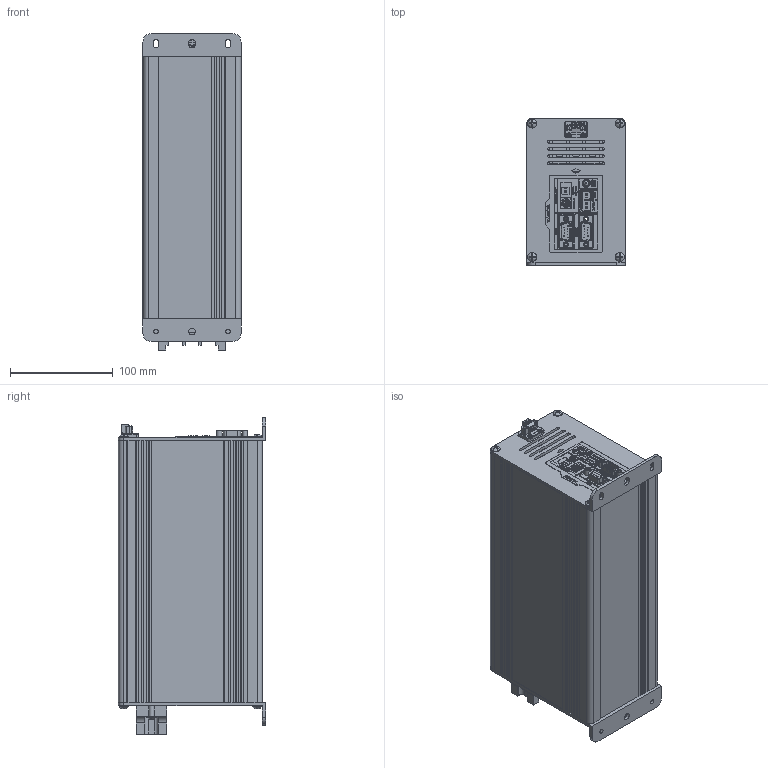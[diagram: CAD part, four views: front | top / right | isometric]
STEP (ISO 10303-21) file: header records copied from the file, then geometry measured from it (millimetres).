
FILE_DESCRIPTION(/* description */ ('','CAx-IF Rec.Pracs.---Representation and Presentation of Product Manufacturing Information (PMI)---4.0---2014-10-13'),/* implementation_level */ '2;1');
FILE_NAME(/* name */ 'H:\04_배터리_전기종\고부하용 배터리 케이스_3D\[NEW] DVCOM 설계자용\DV255COM.stp',/* time_stamp */ '2022-06-16T12:55:44+09:00',/* author */ ('jjang'),/* organization */ (''),/* preprocessor_version */ 'ST-DEVELOPER v18.1',/* originating_system */ 'Autodesk Inventor 2021',/* authorisation */ '');
FILE_SCHEMA (('AP242_MANAGED_MODEL_BASED_3D_ENGINEERING_MIM_LF { 1 0 10303 442 1 1 4 }'));
Products named in the file (1): DV255COM_Shrinkwrap_1
Bounding box: 95.5 x 142.98 x 307.5 mm (x, y, z)
Volume: 523296.7 mm3; surface area: 361721.7 mm2
Topology: 3 solids, 3 shells, 2633 faces, 8386 edges, 6017 vertices
Faces by surface type: plane 1474, cylinder 658, bspline 392, torus 81, sphere 17, cone 11
Full cylindrical faces by diameter (mm): 0.457 x2, 0.61 x27, 0.635 x9, 0.9 x2, 1.397 x9, 2.286 x9, 2.4 x2, 2.8 x6, 2.9 x2, 3.048 x4, 3.8 x10, 3.9 x2, 4 x3, 4.3 x4, 4.4 x2, 4.5 x10, 5 x8, 5.5 x6, 6 x3, 6.082 x1, 6.5 x1, 8 x1, 8.584 x3, 8.6 x3, 8.8 x8, 9.2 x2, 10 x1, 25.4 x1, 55.4 x1
Entity records: 111412 total; most frequent: CARTESIAN_POINT 36757, ORIENTED_EDGE 16742, DIRECTION 12891, EDGE_CURVE 8371, VERTEX_POINT 6016, LINE 4467, VECTOR 4467, AXIS2_PLACEMENT_3D 4212
